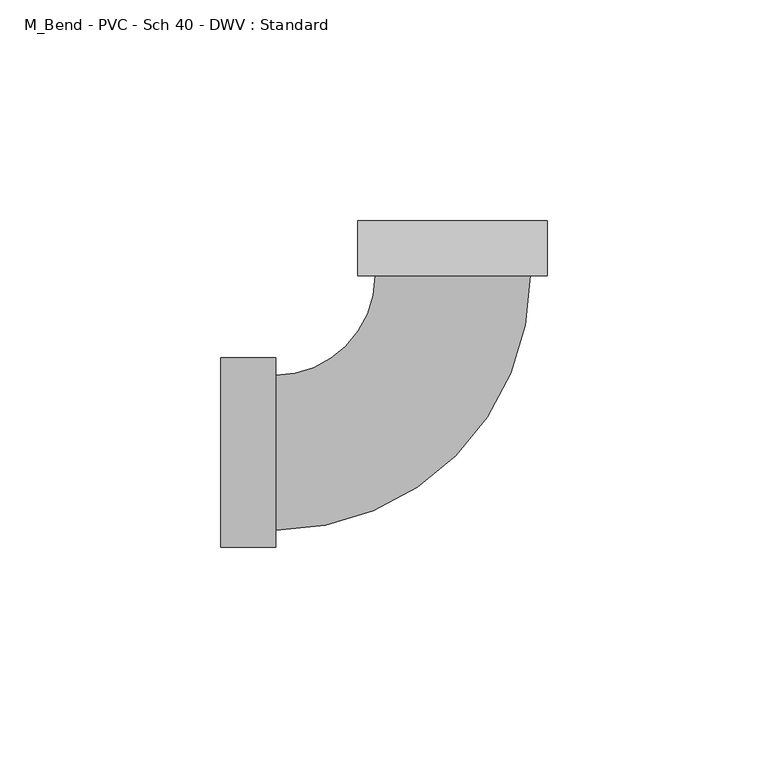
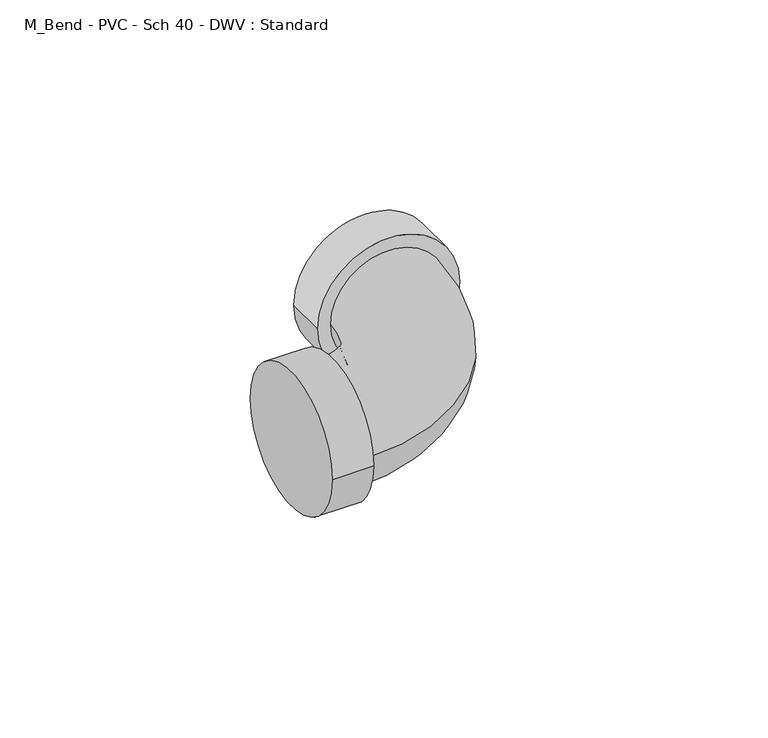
"""IFC4 building model written with IfcOpenShell, lengths in millimetres: pipe fitting geometry, M_Bend - PVC - Sch 40 - DWV : Standard."""

from ifc_helpers import new_model, si_unit, point, frame, origin, place, context, project, spatial, circle_curve, ellipse_curve, trimmed, source, transform, mapped, element, save
from ifc_brep_helpers import plane_surface, cylinder_surface, revolved_surface, advanced_brep


def m_bend_pvc_sch_40_dwv_standard_6bafc166(model_context):
    return source(origin(), model_context, "Body", "AdvancedBrep", [
        advanced_brep(
        [(-52.6140625, -21.4871094, 0.0), (-52.6140625, 21.4871094, 0.0), (-40.1140625, -21.4871094, 0.0), (-40.1140625, 21.4871094, 0.0), (-40.1140625, -17.5640625, 0.0), (-40.1140625, 17.5640625, 0.0), (-17.5727406, 40.1102616, 0.0), (17.5553836, 40.1178615, 0.0), (21.4784303, 40.1187102, 0.0), (-21.4957874, 40.1094129, 0.0), (21.475726, 52.6187099, 0.0), (-21.4984917, 52.6094126, 0.0)],
        [
            (0, 1, circle_curve(frame((-52.6140625, 0.0, 0.0), z_axis=(-1.0, 0.0, 0.0), x_axis=(0.0, 1.0, 0.0)), 21.4871094)),
            (1, 0, circle_curve(frame((-52.6140625, 0.0, 0.0), z_axis=(-1.0, 0.0, 0.0), x_axis=(0.0, 1.0, 0.0)), 21.4871094)),
            (2, 3, circle_curve(frame((-40.1140625, 0.0, 0.0), z_axis=(1.0, 0.0, 0.0), x_axis=(0.0, 1.0, 0.0)), 21.4871094)),
            (3, 2, circle_curve(frame((-40.1140625, 0.0, 0.0), z_axis=(1.0, 0.0, 0.0), x_axis=(0.0, 1.0, 0.0)), 21.4871094)),
            (4, 5, circle_curve(frame((-40.1140625, 0.0, 0.0), z_axis=(-1.0, 0.0, 0.0), x_axis=(0.0, 1.0, 0.0)), 17.5640625)),
            (5, 4, circle_curve(frame((-40.1140625, 0.0, 0.0), z_axis=(-1.0, 0.0, 0.0), x_axis=(0.0, 1.0, 0.0)), 17.5640625)),
            (0, 2),
            (3, 1),
            (6, 5, circle_curve(frame((-40.1140625, 40.1053849, 0.0), z_axis=(0.0, 0.0, -1.0), x_axis=(0.0, -1.0, 0.0)), 22.5413224)),
            (4, 7, circle_curve(frame((-40.1140625, 40.1053849, 0.0), z_axis=(0.0, 0.0, 1.0), x_axis=(0.0, -1.0, 0.0)), 57.6694474)),
            (7, 6, circle_curve(frame((-0.0086785, 40.1140616, 0.0), z_axis=(0.00021634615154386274, -0.9999999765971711, 0.0), x_axis=(-0.9999999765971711, -0.00021634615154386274, 0.0)), 17.5640625)),
            (6, 7, circle_curve(frame((-0.0086785, 40.1140616, 0.0), z_axis=(0.00021634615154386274, -0.9999999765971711, 0.0), x_axis=(-0.9999999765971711, -0.00021634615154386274, 0.0)), 17.5640625)),
            (8, 9, circle_curve(frame((-0.0086785, 40.1140616, 0.0), z_axis=(0.0002163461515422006, -0.9999999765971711, 0.0), x_axis=(-0.9999999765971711, -0.0002163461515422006, 0.0)), 21.4871094)),
            (9, 8, circle_curve(frame((-0.0086785, 40.1140616, 0.0), z_axis=(0.0002163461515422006, -0.9999999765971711, 0.0), x_axis=(-0.9999999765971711, -0.0002163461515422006, 0.0)), 21.4871094)),
            (10, 11, circle_curve(frame((-0.0113828, 52.6140613, 0.0), z_axis=(-0.0002163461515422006, 0.9999999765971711, 0.0), x_axis=(-0.9999999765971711, -0.0002163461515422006, 0.0)), 21.4871094)),
            (11, 10, circle_curve(frame((-0.0113828, 52.6140613, 0.0), z_axis=(-0.0002163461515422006, 0.9999999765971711, 0.0), x_axis=(-0.9999999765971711, -0.0002163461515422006, 0.0)), 21.4871094)),
            (8, 10),
            (11, 9),
        ],
        [
            plane_surface(frame((-52.6140625, 0.0, 0.0), z_axis=(-1.0, 0.0, 0.0), x_axis=(0.0, 0.0, 1.0))),
            plane_surface(frame((-40.1140625, 0.0, 0.0), z_axis=(1.0, 0.0, 0.0), x_axis=(0.0, 0.0, 1.0))),
            cylinder_surface(frame((-52.6140625, 0.0, 0.0), z_axis=(-1.0, 0.0, 0.0), x_axis=(0.0, 1.0, 0.0)), 21.4871094),
            revolved_surface(trimmed(ellipse_curve(frame((-40.1140625, 0.0, 0.0), z_axis=(-1.0, 0.0, 0.0), x_axis=(0.0, 1.0, 0.0)), 17.5640625, 17.5640625), [point((-40.1140625, -17.5640625, 0.0))], [point((-40.1140625, 17.5640625, 0.0))], True, "CARTESIAN"), (-40.1140625, 40.1053849, 0.0), (0.0, 0.0, 1.0)),
            revolved_surface(trimmed(ellipse_curve(frame((-40.1140625, 0.0, 0.0), z_axis=(-1.0, 0.0, 0.0), x_axis=(0.0, 1.0, 0.0)), 17.5640625, 17.5640625), [point((-40.1140625, 17.5640625, 0.0))], [point((-40.1140625, -17.5640625, 0.0))], True, "CARTESIAN"), (-40.1140625, 40.1053849, 0.0), (0.0, 0.0, 1.0)),
            plane_surface(frame((-0.0086785, 40.1140616, 0.0), z_axis=(0.0002163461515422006, -0.9999999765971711, 0.0), x_axis=(0.0, 0.0, 1.0))),
            plane_surface(frame((-0.0113828, 52.6140613, 0.0), z_axis=(-0.0002163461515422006, 0.9999999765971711, 0.0), x_axis=(0.0, 0.0, 1.0))),
            cylinder_surface(frame((-0.0086785, 40.1140616, 0.0), z_axis=(0.0002163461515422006, -0.9999999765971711, 0.0), x_axis=(-0.9999999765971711, -0.0002163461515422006, 0.0)), 21.4871094),
        ],
        [
            (0, [[1, 2]]),
            (1, [[3, 4], [5, 6]]),
            (2, [[-1, 7, -4, 8]]),
            (2, [[-2, -8, -3, -7]]),
            (3, [[9, -5, 10, 11]]),
            (4, [[-9, 12, -10, -6]]),
            (5, [[13, 14], [-11, -12]]),
            (6, [[15, 16]]),
            (7, [[-13, 17, -16, 18]]),
            (7, [[-14, -18, -15, -17]]),
        ],
    ),
    ])


if __name__ == "__main__":
    model = new_model("IFC4")
    model_context = context("Model", 3, world=origin())
    ifc_project = project(units=[si_unit("LENGTHUNIT", "METRE", prefix="MILLI")], contexts=[model_context])
    site = spatial("IfcSite", under=ifc_project)
    building = spatial("IfcBuilding", under=site)
    placement = place(None, origin())
    m_bend_pvc_sch_40_dwv_standard_shape = m_bend_pvc_sch_40_dwv_standard_6bafc166(model_context)
    element("IfcPipeFitting", 1, ObjectType="M_Bend - PVC - Sch 40 - DWV : Standard", at=placement, inside=building, context=model_context, shape_type="MappedRepresentation", body=[
        mapped(m_bend_pvc_sch_40_dwv_standard_shape, transform((0.0, 0.0, 0.0), x_axis=(1.0, 0.0, 0.0), y_axis=(0.0, 1.0, 0.0), z_axis=(0.0, 0.0, 1.0))),
    ])
    save(model, "model.ifc")
